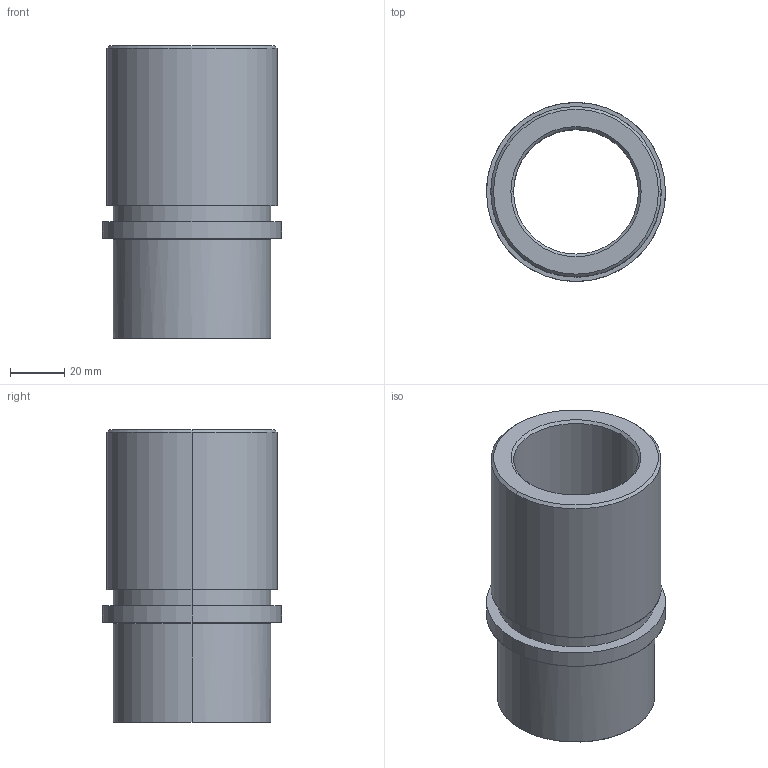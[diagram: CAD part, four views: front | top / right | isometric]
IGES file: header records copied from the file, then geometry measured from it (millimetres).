
Start section: START RECORD GO HERE.
Global section: file name: 733-38.igs; native system: DASSAULT SYSTEMES CATIA V5 R20 - www.3ds.com; preprocessor: CATIA Version 5 Release 20 ; author: Utente; organization: NB04-ASUS; date: 20210111.183454; units: millimetre
Bounding box: 66 x 66 x 108 mm (x, y, z)
Surface area: 40765.8 mm2 (no closed solid volume)
Topology: 0 solids, 0 shells, 25 faces, 100 edges, 100 vertices
Faces by surface type: revolution 20, plane 5
